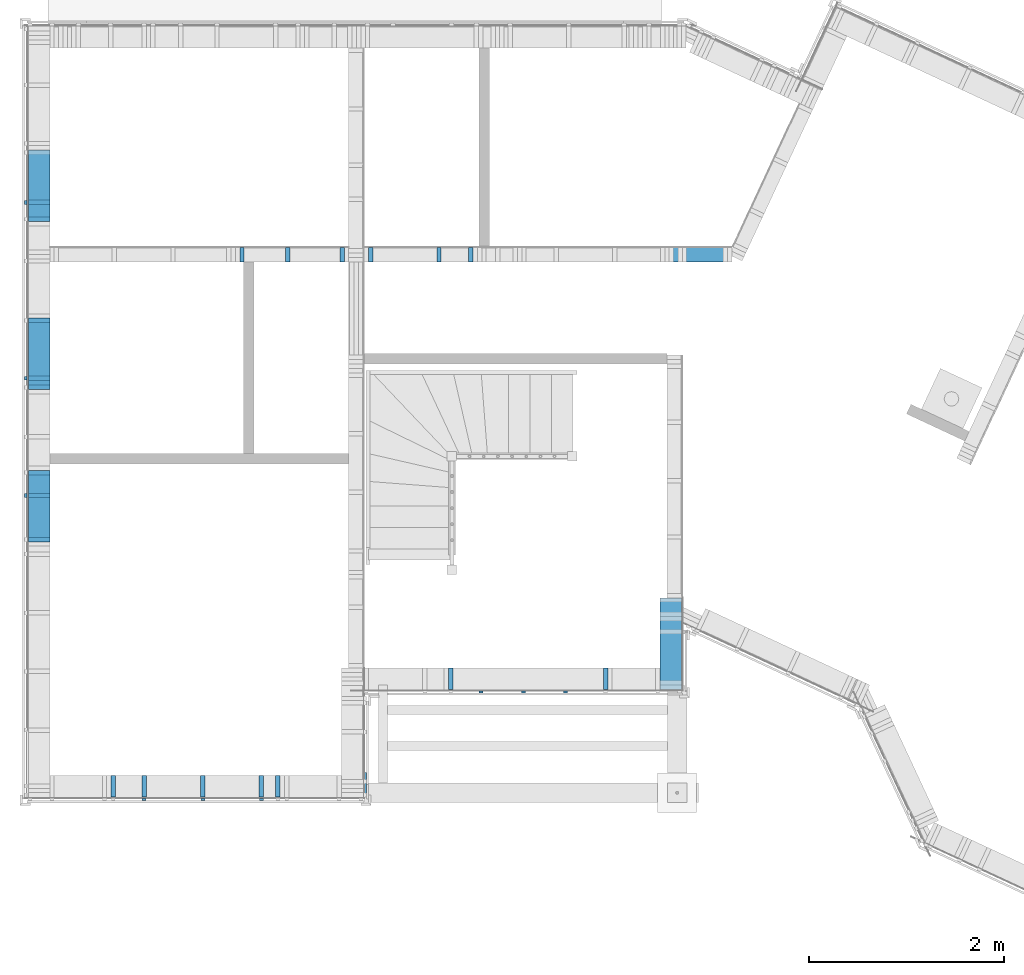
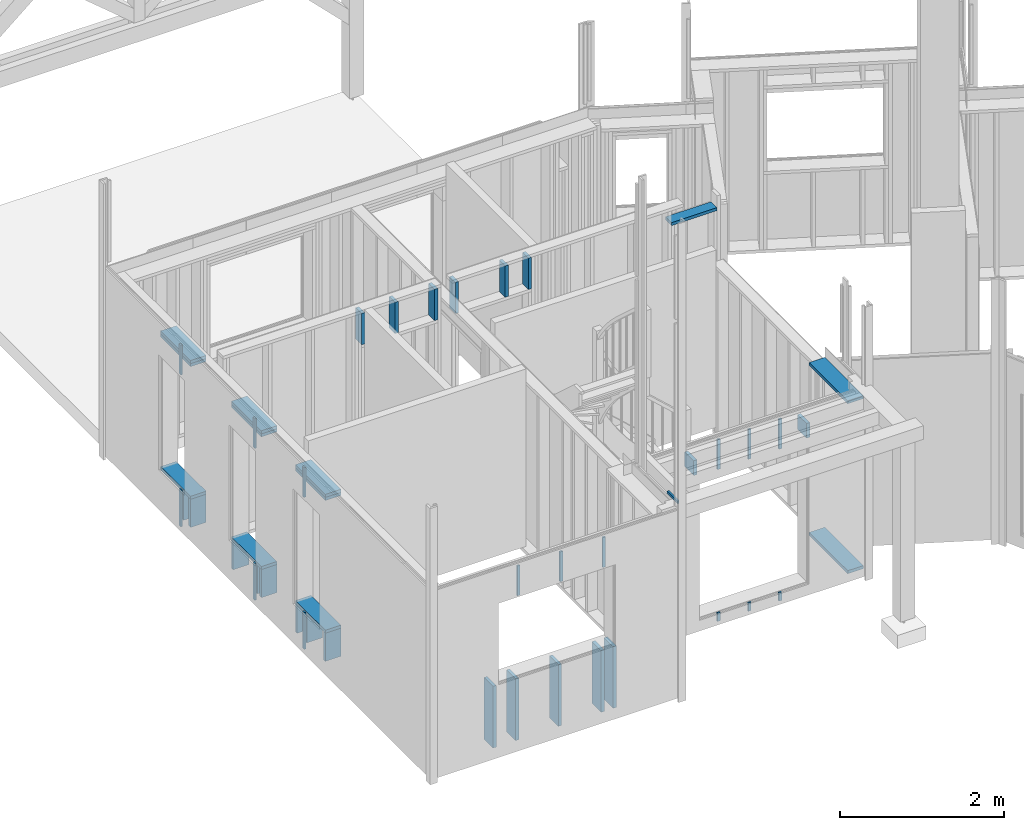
# One storey, part 18 of 34: 49 members.
"""IFC2X3 building model written with IfcOpenShell, lengths in metres."""

from ifc_helpers import new_model, si_unit, direction, frame, origin_with_axes, place, context, subcontext, project, spatial, faceted_brep, material, element, save


model = new_model("IFC2X3")

# Units and contexts
model_context = context("Model", 3, precision=1e-06, world=origin_with_axes(), true_north=direction((0.0, 1.0, 0.0)))
body_context = subcontext(model_context, "Body", "Model", "MODEL_VIEW")
ifc_project = project(units=[si_unit("LENGTHUNIT", "METRE"), si_unit("AREAUNIT", "SQUARE_METRE"), si_unit("VOLUMEUNIT", "CUBIC_METRE"), si_unit("PLANEANGLEUNIT", "RADIAN")], contexts=[model_context])

# Site, building, storey
site_placement = place(None, origin_with_axes())
site = spatial("IfcSite", under=ifc_project, at=site_placement, CompositionType="ELEMENT")
building_placement = place(site_placement, origin_with_axes())
building = spatial("IfcBuilding", under=site, at=building_placement, Name="Building 1", CompositionType="ELEMENT")
storey_placement = place(building_placement, origin_with_axes())
storey = spatial("IfcBuildingStorey", under=building, at=storey_placement, Name="Rez de chaussée", CompositionType="ELEMENT", Elevation=0.0)

# Members
ifc_material = material(Name="Epicéa C24")
for number, where, z_axis, x_axis, name in (
    (1, (0.122, 4.9128031, 2.5005), (-1.0, 0.0, 0.0), (0.0, -1.0, 0.0), "Montant"),
    (2, (0.122, 3.3550564, 0.5295), (-1.0, 0.0, 0.0), (0.0, -1.0, 0.0), "Montant"),
):
    element("IfcMember", number, at=place(storey_placement, frame(where, z_axis=z_axis, x_axis=x_axis)), inside=storey, material=ifc_material, Name=name, context=body_context, shape_type="Brep", body=[
        faceted_brep([(0.73, -0.0225, -0.11), (0.73, 0.0225, -0.11), (0.73, 0.0225, 0.11), (0.73, -0.0225, 0.11), (0.0, 0.0225, 0.11), (0.0, -0.0225, 0.11), (0.0, 0.0225, -0.11), (0.0, -0.0225, -0.11)], [[[0, 1, 2, 3]], [[3, 2, 4, 5]], [[2, 1, 6, 4]], [[6, 7, 5, 4]], [[0, 3, 5, 7]], [[1, 0, 7, 6]]]),
    ])
member_1_placement = place(storey_placement, frame((0.122, 6.098, 0.507), z_axis=(-1.0, 0.0, 0.0), x_axis=(0.0, 0.0, -1.0)))
element("IfcMember", 3, at=member_1_placement, inside=storey, material=ifc_material, Name="Montant", context=body_context, shape_type="Brep", body=[
    faceted_brep([(0.417, -0.0225, -0.11), (0.417, 0.0225, -0.11), (0.417, 0.0225, 0.11), (0.417, -0.0225, 0.11), (0.0, 0.0225, 0.11), (0.0, -0.0225, 0.11), (0.0, 0.0225, -0.11), (0.0, -0.0225, -0.11)], [[[0, 1, 2, 3]], [[4, 5, 3, 2]], [[6, 4, 2, 1]], [[7, 6, 1, 0]], [[5, 7, 0, 3]], [[7, 5, 4, 6]]]),
])
member_2_placement = place(storey_placement, frame((-0.013, 6.098, 0.552), z_axis=(-1.0, 0.0, 0.0), x_axis=(0.0, 0.0, -1.0)))
element("IfcMember", 4, at=member_2_placement, inside=storey, material=ifc_material, Name="latte 27/40", context=body_context, shape_type="Brep", body=[
    faceted_brep([(0.547, 0.02, 0.012), (0.547, -0.02, 0.012), (0.547, -0.02, -0.012), (0.547, 0.02, -0.012), (0.0, -0.02, -0.012), (0.0, 0.02, -0.012), (0.0, -0.02, 0.012), (0.0, 0.02, 0.012)], [[[0, 1, 2, 3]], [[4, 5, 3, 2]], [[6, 4, 2, 1]], [[5, 7, 0, 3]], [[7, 6, 1, 0]], [[5, 4, 6, 7]]]),
])
member_3_placement = place(storey_placement, frame((5.078, 1.0878281, 0.129), z_axis=(0.0, 1.0, 0.0), x_axis=(0.0, 0.0, -1.0)))
element("IfcMember", 5, at=member_3_placement, inside=storey, material=ifc_material, Name="latte 27/40", context=body_context, shape_type="Brep", body=[
    faceted_brep([(0.124, 0.02, -0.012), (0.124, 0.02, 0.012), (0.124, -0.02, 0.012), (0.124, -0.02, -0.012), (0.0, 0.02, 0.012), (0.0, 0.02, -0.012), (0.0, -0.02, -0.012), (0.0, -0.02, 0.012)], [[[0, 1, 2, 3]], [[4, 5, 6, 7]], [[3, 6, 5, 0]], [[2, 7, 6, 3]], [[1, 4, 7, 2]], [[0, 5, 4, 1]]]),
])
for number, where, z_axis, x_axis, name in (
    (6, (4.646, 1.0878281, 2.703), (0.0, 1.0, 0.0), (0.0, 0.0, -1.0), "latte 27/40"),
    (7, (5.078, 1.0878281, 2.703), (0.0, 1.0, 0.0), (0.0, 0.0, -1.0), "latte 27/40"),
    (8, (5.51, 1.0878281, 2.703), (0.0, 1.0, 0.0), (0.0, 0.0, -1.0), "latte 27/40"),
):
    element("IfcMember", number, at=place(storey_placement, frame(where, z_axis=z_axis, x_axis=x_axis)), inside=storey, material=ifc_material, Name=name, context=body_context, shape_type="Brep", body=[
        faceted_brep([(0.443, 0.02, -0.012), (0.443, 0.02, 0.012), (0.443, -0.02, 0.012), (0.443, -0.02, -0.012), (0.0, 0.02, 0.012), (0.0, 0.02, -0.012), (0.0, -0.02, -0.012), (0.0, -0.02, 0.012)], [[[0, 1, 2, 3]], [[4, 5, 6, 7]], [[3, 6, 5, 0]], [[2, 7, 6, 3]], [[1, 4, 7, 2]], [[0, 5, 4, 1]]]),
    ])
for number, where, z_axis, x_axis, name in (
    (9, (5.51, 1.0878281, 0.129), (0.0, 1.0, 0.0), (0.0, 0.0, -1.0), "latte 27/40"),
    (10, (4.646, 1.0878281, 0.129), (0.0, 1.0, 0.0), (0.0, 0.0, -1.0), "latte 27/40"),
):
    element("IfcMember", number, at=place(storey_placement, frame(where, z_axis=z_axis, x_axis=x_axis)), inside=storey, material=ifc_material, Name=name, context=body_context, shape_type="Brep", body=[
        faceted_brep([(0.124, 0.02, -0.012), (0.124, 0.02, 0.012), (0.124, -0.02, 0.012), (0.124, -0.02, -0.012), (0.0, 0.02, 0.012), (0.0, 0.02, -0.012), (0.0, -0.02, -0.012), (0.0, -0.02, 0.012)], [[[0, 1, 2, 3]], [[4, 5, 6, 7]], [[3, 6, 5, 0]], [[2, 7, 6, 3]], [[1, 4, 7, 2]], [[0, 5, 4, 1]]]),
    ])
member_4_placement = place(storey_placement, frame((1.198, -0.013, 2.703), z_axis=(0.0, -1.0, 0.0), x_axis=(0.0, 0.0, -1.0)))
element("IfcMember", 11, at=member_4_placement, inside=storey, material=ifc_material, Name="latte 27/40", context=body_context, shape_type="Brep", body=[
    faceted_brep([(0.443, 0.02, -0.012), (0.443, 0.02, 0.012), (0.443, -0.02, 0.012), (0.443, -0.02, -0.012), (0.0, 0.02, 0.012), (0.0, 0.02, -0.012), (0.0, -0.02, -0.012), (0.0, -0.02, 0.012)], [[[0, 1, 2, 3]], [[4, 5, 6, 7]], [[3, 6, 5, 0]], [[2, 7, 6, 3]], [[1, 4, 7, 2]], [[0, 5, 4, 1]]]),
])
member_5_placement = place(storey_placement, frame((-0.013, 3.098, 0.552), z_axis=(-1.0, 0.0, 0.0), x_axis=(0.0, 0.0, -1.0)))
element("IfcMember", 12, at=member_5_placement, inside=storey, material=ifc_material, Name="latte 27/40", context=body_context, shape_type="Brep", body=[
    faceted_brep([(0.547, 0.02, 0.012), (0.547, -0.02, 0.012), (0.547, -0.02, -0.012), (0.547, 0.02, -0.012), (0.0, -0.02, -0.012), (0.0, 0.02, -0.012), (0.0, -0.02, 0.012), (0.0, 0.02, 0.012)], [[[0, 1, 2, 3]], [[4, 5, 3, 2]], [[6, 4, 2, 1]], [[5, 7, 0, 3]], [[7, 6, 1, 0]], [[5, 4, 6, 7]]]),
])
for number, where, z_axis, x_axis, name in (
    (13, (0.122, 3.098, 0.507), (-1.0, 0.0, 0.0), (0.0, 0.0, -1.0), "Montant"),
    (14, (0.122, 4.298, 0.507), (-1.0, 0.0, 0.0), (0.0, 0.0, -1.0), "Montant"),
):
    element("IfcMember", number, at=place(storey_placement, frame(where, z_axis=z_axis, x_axis=x_axis)), inside=storey, material=ifc_material, Name=name, context=body_context, shape_type="Brep", body=[
        faceted_brep([(0.417, -0.0225, -0.11), (0.417, 0.0225, -0.11), (0.417, 0.0225, 0.11), (0.417, -0.0225, 0.11), (0.0, 0.0225, 0.11), (0.0, -0.0225, 0.11), (0.0, 0.0225, -0.11), (0.0, -0.0225, -0.11)], [[[0, 1, 2, 3]], [[4, 5, 3, 2]], [[6, 4, 2, 1]], [[7, 6, 1, 0]], [[5, 7, 0, 3]], [[7, 5, 4, 6]]]),
    ])
member_6_placement = place(storey_placement, frame((-0.013, 4.298, 0.552), z_axis=(-1.0, 0.0, 0.0), x_axis=(0.0, 0.0, -1.0)))
element("IfcMember", 15, at=member_6_placement, inside=storey, material=ifc_material, Name="latte 27/40", context=body_context, shape_type="Brep", body=[
    faceted_brep([(0.547, 0.02, 0.012), (0.547, -0.02, 0.012), (0.547, -0.02, -0.012), (0.547, 0.02, -0.012), (0.0, -0.02, -0.012), (0.0, 0.02, -0.012), (0.0, -0.02, 0.012), (0.0, 0.02, 0.012)], [[[0, 1, 2, 3]], [[4, 5, 3, 2]], [[6, 4, 2, 1]], [[5, 7, 0, 3]], [[7, 6, 1, 0]], [[5, 4, 6, 7]]]),
])
member_7_placement = place(storey_placement, frame((-0.013, 6.098, 2.703), z_axis=(-1.0, 0.0, 0.0), x_axis=(0.0, 0.0, -1.0)))
element("IfcMember", 16, at=member_7_placement, inside=storey, material=ifc_material, Name="latte 27/40", context=body_context, shape_type="Brep", body=[
    faceted_brep([(0.443, -0.02, -0.012), (0.443, 0.02, -0.012), (0.443, 0.02, 0.012), (0.443, -0.02, 0.012), (0.0, 0.02, 0.012), (0.0, -0.02, 0.012), (0.0, 0.02, -0.012), (0.0, -0.02, -0.012)], [[[0, 1, 2, 3]], [[3, 2, 4, 5]], [[2, 1, 6, 4]], [[5, 4, 6, 7]], [[1, 0, 7, 6]], [[0, 3, 5, 7]]]),
])
member_8_placement = place(storey_placement, frame((3.461, 0.012, 2.83), z_axis=(-1.0, 0.0, 0.0), x_axis=(0.0, 1.0, 0.0)))
element("IfcMember", 17, at=member_8_placement, inside=storey, material=ifc_material, Name="latte chantier", context=body_context, shape_type="Brep", body=[
    faceted_brep([(0.25, 0.02, -0.012), (0.25, 0.02, 0.012), (0.25, -0.02, 0.012), (0.25, -0.02, -0.012), (0.0, 0.02, 0.012), (0.0, 0.02, -0.012), (0.0, -0.02, -0.012), (0.0, -0.02, 0.012)], [[[0, 1, 2, 3]], [[4, 5, 6, 7]], [[3, 6, 5, 0]], [[2, 7, 6, 3]], [[1, 4, 7, 2]], [[0, 5, 4, 1]]]),
])
for number, where, z_axis, x_axis, name in (
    (18, (0.122, 4.9128031, 0.5295), (-1.0, 0.0, 0.0), (0.0, -1.0, 0.0), "Montant"),
    (19, (0.122, 6.6331735, 2.5455), (-1.0, 0.0, 0.0), (0.0, -1.0, 0.0), "Montant"),
    (20, (0.122, 3.3550564, 2.5005), (-1.0, 0.0, 0.0), (0.0, -1.0, 0.0), "Montant"),
):
    element("IfcMember", number, at=place(storey_placement, frame(where, z_axis=z_axis, x_axis=x_axis)), inside=storey, material=ifc_material, Name=name, context=body_context, shape_type="Brep", body=[
        faceted_brep([(0.73, -0.0225, -0.11), (0.73, 0.0225, -0.11), (0.73, 0.0225, 0.11), (0.73, -0.0225, 0.11), (0.0, 0.0225, 0.11), (0.0, -0.0225, 0.11), (0.0, 0.0225, -0.11), (0.0, -0.0225, -0.11)], [[[0, 1, 2, 3]], [[3, 2, 4, 5]], [[2, 1, 6, 4]], [[6, 7, 5, 4]], [[0, 3, 5, 7]], [[1, 0, 7, 6]]]),
    ])
member_9_placement = place(storey_placement, frame((2.6685, 5.5627176, 2.76), z_axis=(0.0, 1.0, 0.0), x_axis=(0.0, 0.0, -1.0)))
element("IfcMember", 21, at=member_9_placement, inside=storey, material=ifc_material, Name="Montant", context=body_context, shape_type="Brep", body=[
    faceted_brep([(0.465, 0.0225, -0.0725), (0.465, 0.0225, 0.0725), (0.465, -0.0225, 0.0725), (0.465, -0.0225, -0.0725), (0.0, 0.0225, 0.0725), (0.0, -0.0225, 0.0725), (0.0, 0.0225, -0.0725), (0.0, -0.0225, -0.0725)], [[[0, 1, 2, 3]], [[2, 1, 4, 5]], [[1, 0, 6, 4]], [[0, 3, 7, 6]], [[3, 2, 5, 7]], [[5, 4, 6, 7]]]),
])
member_10_placement = place(storey_placement, frame((0.122, 4.9128031, 2.5455), z_axis=(-1.0, 0.0, 0.0), x_axis=(0.0, -1.0, 0.0)))
element("IfcMember", 22, at=member_10_placement, inside=storey, material=ifc_material, Name="Montant", context=body_context, shape_type="Brep", body=[
    faceted_brep([(0.73, -0.0225, -0.11), (0.73, 0.0225, -0.11), (0.73, 0.0225, 0.11), (0.73, -0.0225, 0.11), (0.0, 0.0225, 0.11), (0.0, -0.0225, 0.11), (0.0, 0.0225, -0.11), (0.0, -0.0225, -0.11)], [[[0, 1, 2, 3]], [[3, 2, 4, 5]], [[2, 1, 6, 4]], [[6, 7, 5, 4]], [[0, 3, 5, 7]], [[1, 0, 7, 6]]]),
])
member_11_placement = place(storey_placement, frame((4.3349376, 1.2228281, 2.478), z_axis=(0.0, -1.0, 0.0), x_axis=(0.0, 0.0, -1.0)))
element("IfcMember", 23, at=member_11_placement, inside=storey, material=ifc_material, Name="Montant", context=body_context, shape_type="Brep", body=[
    faceted_brep([(0.0, 0.0225, 0.11), (0.0, 0.0225, -0.11), (0.0, -0.0225, -0.11), (0.0, -0.0225, 0.11), (0.218, 0.0225, -0.11), (0.218, -0.0225, -0.11), (0.218, 0.0225, 0.11), (0.218, -0.0225, 0.11)], [[[0, 1, 2, 3]], [[2, 1, 4, 5]], [[1, 0, 6, 4]], [[4, 6, 7, 5]], [[3, 2, 5, 7]], [[0, 3, 7, 6]]]),
])
member_12_placement = place(storey_placement, frame((0.8815, 0.122, 1.007), z_axis=(0.0, -1.0, 0.0), x_axis=(0.0, 0.0, -1.0)))
element("IfcMember", 24, at=member_12_placement, inside=storey, material=ifc_material, Name="Montant", context=body_context, shape_type="Brep", body=[
    faceted_brep([(0.917, -0.0225, -0.11), (0.917, 0.0225, -0.11), (0.917, 0.0225, 0.11), (0.917, -0.0225, 0.11), (0.0, -0.0225, 0.11), (0.0, -0.0225, -0.11), (0.0, 0.0225, -0.11), (0.0, 0.0225, 0.11)], [[[0, 1, 2, 3]], [[0, 3, 4, 5]], [[1, 0, 5, 6]], [[2, 1, 6, 7]], [[3, 2, 7, 4]], [[4, 7, 6, 5]]]),
])
member_13_placement = place(storey_placement, frame((1.798, -0.013, 2.703), z_axis=(0.0, -1.0, 0.0), x_axis=(0.0, 0.0, -1.0)))
element("IfcMember", 25, at=member_13_placement, inside=storey, material=ifc_material, Name="latte 27/40", context=body_context, shape_type="Brep", body=[
    faceted_brep([(0.443, 0.02, -0.012), (0.443, 0.02, 0.012), (0.443, -0.02, 0.012), (0.443, -0.02, -0.012), (0.0, 0.02, 0.012), (0.0, 0.02, -0.012), (0.0, -0.02, -0.012), (0.0, -0.02, 0.012)], [[[0, 1, 2, 3]], [[4, 5, 6, 7]], [[3, 6, 5, 0]], [[2, 7, 6, 3]], [[1, 4, 7, 2]], [[0, 5, 4, 1]]]),
])
member_14_placement = place(storey_placement, frame((6.586, 1.1128281, 2.5905), z_axis=(-1.0, 0.0, 0.0), x_axis=(0.0, 1.0, 0.0)))
element("IfcMember", 26, at=member_14_placement, inside=storey, material=ifc_material, Name="Montant", context=body_context, shape_type="Brep", body=[
    faceted_brep([(0.9386462, -0.0225, -0.11), (0.9386462, 0.0225, -0.11), (0.9386462, 0.0225, 0.11), (0.9386462, -0.0225, 0.11), (0.0, 0.0225, 0.11), (0.0, 0.0225, -0.11), (0.0, -0.0225, -0.11), (0.0, -0.0225, 0.11)], [[[0, 1, 2, 3]], [[4, 5, 6, 7]], [[2, 4, 7, 3]], [[1, 5, 4, 2]], [[0, 6, 5, 1]], [[3, 7, 6, 0]]]),
])
member_15_placement = place(storey_placement, frame((2.5665, 0.122, 1.007), z_axis=(0.0, -1.0, 0.0), x_axis=(0.0, 0.0, -1.0)))
element("IfcMember", 27, at=member_15_placement, inside=storey, material=ifc_material, Name="Montant", context=body_context, shape_type="Brep", body=[
    faceted_brep([(0.917, -0.0225, -0.11), (0.917, 0.0225, -0.11), (0.917, 0.0225, 0.11), (0.917, -0.0225, 0.11), (0.0, -0.0225, 0.11), (0.0, -0.0225, -0.11), (0.0, 0.0225, -0.11), (0.0, 0.0225, 0.11)], [[[0, 1, 2, 3]], [[0, 3, 4, 5]], [[1, 0, 5, 6]], [[2, 1, 6, 7]], [[3, 2, 7, 4]], [[4, 7, 6, 5]]]),
])
member_16_placement = place(storey_placement, frame((6.586, 1.1128281, 0.0675), z_axis=(-1.0, 0.0, 0.0), x_axis=(0.0, 1.0, 0.0)))
element("IfcMember", 28, at=member_16_placement, inside=storey, material=ifc_material, Name="Lisse basse", context=body_context, shape_type="Brep", body=[
    faceted_brep([(0.9386462, -0.0225, -0.11), (0.9386462, 0.0225, -0.11), (0.9386462, 0.0225, 0.11), (0.9386462, -0.0225, 0.11), (0.0, 0.0225, 0.11), (0.0, 0.0225, -0.11), (0.0, -0.0225, -0.11), (0.0, -0.0225, 0.11)], [[[0, 1, 2, 3]], [[4, 5, 6, 7]], [[2, 4, 7, 3]], [[1, 5, 4, 2]], [[0, 6, 5, 1]], [[3, 7, 6, 0]]]),
])
for number, where, z_axis, x_axis, name in (
    (29, (0.122, 2.6475564, 0.507), (-1.0, 0.0, 0.0), (0.0, 0.0, -1.0), "Montant"),
    (30, (0.122, 3.3325564, 0.507), (-1.0, 0.0, 0.0), (0.0, 0.0, -1.0), "Montant"),
):
    element("IfcMember", number, at=place(storey_placement, frame(where, z_axis=z_axis, x_axis=x_axis)), inside=storey, material=ifc_material, Name=name, context=body_context, shape_type="Brep", body=[
        faceted_brep([(0.417, -0.0225, -0.11), (0.417, 0.0225, -0.11), (0.417, 0.0225, 0.11), (0.417, -0.0225, 0.11), (0.0, 0.0225, 0.11), (0.0, -0.0225, 0.11), (0.0, 0.0225, -0.11), (0.0, -0.0225, -0.11)], [[[0, 1, 2, 3]], [[4, 5, 3, 2]], [[6, 4, 2, 1]], [[7, 6, 1, 0]], [[5, 7, 0, 3]], [[7, 5, 4, 6]]]),
    ])
member_17_placement = place(storey_placement, frame((0.122, 3.3550564, 2.5455), z_axis=(-1.0, 0.0, 0.0), x_axis=(0.0, -1.0, 0.0)))
element("IfcMember", 31, at=member_17_placement, inside=storey, material=ifc_material, Name="Montant", context=body_context, shape_type="Brep", body=[
    faceted_brep([(0.73, -0.0225, -0.11), (0.73, 0.0225, -0.11), (0.73, 0.0225, 0.11), (0.73, -0.0225, 0.11), (0.0, 0.0225, 0.11), (0.0, -0.0225, 0.11), (0.0, 0.0225, -0.11), (0.0, -0.0225, -0.11)], [[[0, 1, 2, 3]], [[3, 2, 4, 5]], [[2, 1, 6, 4]], [[6, 7, 5, 4]], [[0, 3, 5, 7]], [[1, 0, 7, 6]]]),
])
member_18_placement = place(storey_placement, frame((0.122, 4.8903031, 0.507), z_axis=(-1.0, 0.0, 0.0), x_axis=(0.0, 0.0, -1.0)))
element("IfcMember", 32, at=member_18_placement, inside=storey, material=ifc_material, Name="Montant", context=body_context, shape_type="Brep", body=[
    faceted_brep([(0.417, -0.0225, -0.11), (0.417, 0.0225, -0.11), (0.417, 0.0225, 0.11), (0.417, -0.0225, 0.11), (0.0, 0.0225, 0.11), (0.0, -0.0225, 0.11), (0.0, 0.0225, -0.11), (0.0, -0.0225, -0.11)], [[[0, 1, 2, 3]], [[4, 5, 3, 2]], [[6, 4, 2, 1]], [[7, 6, 1, 0]], [[5, 7, 0, 3]], [[7, 5, 4, 6]]]),
])
member_19_placement = place(storey_placement, frame((-0.013, 4.298, 2.703), z_axis=(-1.0, 0.0, 0.0), x_axis=(0.0, 0.0, -1.0)))
element("IfcMember", 33, at=member_19_placement, inside=storey, material=ifc_material, Name="latte 27/40", context=body_context, shape_type="Brep", body=[
    faceted_brep([(0.443, -0.02, -0.012), (0.443, 0.02, -0.012), (0.443, 0.02, 0.012), (0.443, -0.02, 0.012), (0.0, 0.02, 0.012), (0.0, -0.02, 0.012), (0.0, 0.02, -0.012), (0.0, -0.02, -0.012)], [[[0, 1, 2, 3]], [[3, 2, 4, 5]], [[2, 1, 6, 4]], [[5, 4, 6, 7]], [[1, 0, 7, 6]], [[0, 3, 5, 7]]]),
])
member_20_placement = place(storey_placement, frame((0.122, 6.6331735, 2.5005), z_axis=(-1.0, 0.0, 0.0), x_axis=(0.0, -1.0, 0.0)))
element("IfcMember", 34, at=member_20_placement, inside=storey, material=ifc_material, Name="Montant", context=body_context, shape_type="Brep", body=[
    faceted_brep([(0.73, -0.0225, -0.11), (0.73, 0.0225, -0.11), (0.73, 0.0225, 0.11), (0.73, -0.0225, 0.11), (0.0, 0.0225, 0.11), (0.0, -0.0225, 0.11), (0.0, 0.0225, -0.11), (0.0, -0.0225, -0.11)], [[[0, 1, 2, 3]], [[3, 2, 4, 5]], [[2, 1, 6, 4]], [[6, 7, 5, 4]], [[0, 3, 5, 7]], [[1, 0, 7, 6]]]),
])
member_21_placement = place(storey_placement, frame((5.9199376, 1.2228281, 2.478), z_axis=(0.0, -1.0, 0.0), x_axis=(0.0, 0.0, -1.0)))
element("IfcMember", 35, at=member_21_placement, inside=storey, material=ifc_material, Name="Montant", context=body_context, shape_type="Brep", body=[
    faceted_brep([(0.0, 0.0225, 0.11), (0.0, 0.0225, -0.11), (0.0, -0.0225, -0.11), (0.0, -0.0225, 0.11), (0.218, 0.0225, -0.11), (0.218, -0.0225, -0.11), (0.218, 0.0225, 0.11), (0.218, -0.0225, 0.11)], [[[0, 1, 2, 3]], [[2, 1, 4, 5]], [[1, 0, 6, 4]], [[4, 6, 7, 5]], [[3, 2, 5, 7]], [[0, 3, 7, 6]]]),
])
member_22_placement = place(storey_placement, frame((0.122, 4.2053031, 0.507), z_axis=(-1.0, 0.0, 0.0), x_axis=(0.0, 0.0, -1.0)))
element("IfcMember", 36, at=member_22_placement, inside=storey, material=ifc_material, Name="Montant", context=body_context, shape_type="Brep", body=[
    faceted_brep([(0.417, -0.0225, -0.11), (0.417, 0.0225, -0.11), (0.417, 0.0225, 0.11), (0.417, -0.0225, 0.11), (0.0, 0.0225, 0.11), (0.0, -0.0225, 0.11), (0.0, 0.0225, -0.11), (0.0, -0.0225, -0.11)], [[[0, 1, 2, 3]], [[4, 5, 3, 2]], [[6, 4, 2, 1]], [[7, 6, 1, 0]], [[5, 7, 0, 3]], [[7, 5, 4, 6]]]),
])
member_23_placement = place(storey_placement, frame((0.122, 6.6331735, 0.5295), z_axis=(-1.0, 0.0, 0.0), x_axis=(0.0, -1.0, 0.0)))
element("IfcMember", 37, at=member_23_placement, inside=storey, material=ifc_material, Name="Montant", context=body_context, shape_type="Brep", body=[
    faceted_brep([(0.73, -0.0225, -0.11), (0.73, 0.0225, -0.11), (0.73, 0.0225, 0.11), (0.73, -0.0225, 0.11), (0.0, 0.0225, 0.11), (0.0, -0.0225, 0.11), (0.0, 0.0225, -0.11), (0.0, -0.0225, -0.11)], [[[0, 1, 2, 3]], [[3, 2, 4, 5]], [[2, 1, 6, 4]], [[6, 7, 5, 4]], [[0, 3, 5, 7]], [[1, 0, 7, 6]]]),
])
member_24_placement = place(storey_placement, frame((0.122, 5.9256735, 0.507), z_axis=(-1.0, 0.0, 0.0), x_axis=(0.0, 0.0, -1.0)))
element("IfcMember", 38, at=member_24_placement, inside=storey, material=ifc_material, Name="Montant", context=body_context, shape_type="Brep", body=[
    faceted_brep([(0.417, -0.0225, -0.11), (0.417, 0.0225, -0.11), (0.417, 0.0225, 0.11), (0.417, -0.0225, 0.11), (0.0, 0.0225, 0.11), (0.0, -0.0225, 0.11), (0.0, 0.0225, -0.11), (0.0, -0.0225, -0.11)], [[[0, 1, 2, 3]], [[4, 5, 3, 2]], [[6, 4, 2, 1]], [[7, 6, 1, 0]], [[5, 7, 0, 3]], [[7, 5, 4, 6]]]),
])
for number, where, z_axis, x_axis, name in (
    (39, (2.398, 0.122, 1.007), (0.0, -1.0, 0.0), (0.0, 0.0, -1.0), "Montant"),
    (40, (1.198, 0.122, 1.007), (0.0, -1.0, 0.0), (0.0, 0.0, -1.0), "Montant"),
    (41, (1.798, 0.122, 1.007), (0.0, -1.0, 0.0), (0.0, 0.0, -1.0), "Montant"),
):
    element("IfcMember", number, at=place(storey_placement, frame(where, z_axis=z_axis, x_axis=x_axis)), inside=storey, material=ifc_material, Name=name, context=body_context, shape_type="Brep", body=[
        faceted_brep([(0.917, -0.0225, -0.11), (0.917, 0.0225, -0.11), (0.917, 0.0225, 0.11), (0.917, -0.0225, 0.11), (0.0, -0.0225, 0.11), (0.0, -0.0225, -0.11), (0.0, 0.0225, -0.11), (0.0, 0.0225, 0.11)], [[[0, 1, 2, 3]], [[0, 3, 4, 5]], [[1, 0, 5, 6]], [[2, 1, 6, 7]], [[3, 2, 7, 4]], [[4, 7, 6, 5]]]),
    ])
member_25_placement = place(storey_placement, frame((-0.013, 3.098, 2.703), z_axis=(-1.0, 0.0, 0.0), x_axis=(0.0, 0.0, -1.0)))
element("IfcMember", 42, at=member_25_placement, inside=storey, material=ifc_material, Name="latte 27/40", context=body_context, shape_type="Brep", body=[
    faceted_brep([(0.443, -0.02, -0.012), (0.443, 0.02, -0.012), (0.443, 0.02, 0.012), (0.443, -0.02, 0.012), (0.0, 0.02, 0.012), (0.0, -0.02, 0.012), (0.0, 0.02, -0.012), (0.0, -0.02, -0.012)], [[[0, 1, 2, 3]], [[3, 2, 4, 5]], [[2, 1, 6, 4]], [[5, 4, 6, 7]], [[1, 0, 7, 6]], [[0, 3, 5, 7]]]),
])
member_26_placement = place(storey_placement, frame((4.2151297, 5.5627176, 2.76), z_axis=(0.0, 1.0, 0.0), x_axis=(0.0, 0.0, -1.0)))
element("IfcMember", 43, at=member_26_placement, inside=storey, material=ifc_material, Name="Montant", context=body_context, shape_type="Brep", body=[
    faceted_brep([(0.465, 0.0225, -0.0725), (0.465, 0.0225, 0.0725), (0.465, -0.0225, 0.0725), (0.465, -0.0225, -0.0725), (0.0, 0.0225, 0.0725), (0.0, -0.0225, 0.0725), (0.0, 0.0225, -0.0725), (0.0, -0.0225, -0.0725)], [[[0, 1, 2, 3]], [[2, 1, 4, 5]], [[1, 0, 6, 4]], [[0, 3, 7, 6]], [[3, 2, 5, 7]], [[5, 4, 6, 7]]]),
])
member_27_placement = place(storey_placement, frame((2.398, -0.013, 2.703), z_axis=(0.0, -1.0, 0.0), x_axis=(0.0, 0.0, -1.0)))
element("IfcMember", 44, at=member_27_placement, inside=storey, material=ifc_material, Name="latte 27/40", context=body_context, shape_type="Brep", body=[
    faceted_brep([(0.443, 0.02, -0.012), (0.443, 0.02, 0.012), (0.443, -0.02, 0.012), (0.443, -0.02, -0.012), (0.0, 0.02, 0.012), (0.0, 0.02, -0.012), (0.0, -0.02, -0.012), (0.0, -0.02, 0.012)], [[[0, 1, 2, 3]], [[4, 5, 6, 7]], [[3, 6, 5, 0]], [[2, 7, 6, 3]], [[1, 4, 7, 2]], [[0, 5, 4, 1]]]),
])
member_28_placement = place(storey_placement, frame((6.526, 5.5627176, 2.5625), z_axis=(0.0, 1.0, 0.0), x_axis=(1.0, 0.0, 0.0)))
element("IfcMember", 45, at=member_28_placement, inside=storey, material=ifc_material, Name="Montant", context=body_context, shape_type="Brep", body=[
    faceted_brep([(0.0, 0.0225, -0.0725), (0.0, -0.0225, -0.0725), (0.0, -0.0225, 0.0725), (0.0, 0.0225, 0.0725), (0.6421297, 0.0225, -0.0725), (0.6421297, -0.0225, -0.0725), (0.6421297, 0.0225, 0.0725), (0.6421297, -0.0225, 0.0725)], [[[0, 1, 2, 3]], [[1, 0, 4, 5]], [[0, 3, 6, 4]], [[5, 4, 6, 7]], [[2, 1, 5, 7]], [[3, 2, 7, 6]]]),
])
for number, where, z_axis, x_axis, name in (
    (46, (4.5405, 5.5627176, 2.76), (0.0, 1.0, 0.0), (0.0, 0.0, -1.0), "Montant"),
    (47, (3.5155, 5.5627176, 2.76), (0.0, 1.0, 0.0), (0.0, 0.0, -1.0), "Montant"),
    (48, (3.2235, 5.5627176, 2.76), (0.0, 1.0, 0.0), (0.0, 0.0, -1.0), "Montant"),
    (49, (2.1985, 5.5627176, 2.76), (0.0, 1.0, 0.0), (0.0, 0.0, -1.0), "Montant"),
):
    element("IfcMember", number, at=place(storey_placement, frame(where, z_axis=z_axis, x_axis=x_axis)), inside=storey, material=ifc_material, Name=name, context=body_context, shape_type="Brep", body=[
        faceted_brep([(0.465, 0.0225, -0.0725), (0.465, 0.0225, 0.0725), (0.465, -0.0225, 0.0725), (0.465, -0.0225, -0.0725), (0.0, 0.0225, 0.0725), (0.0, -0.0225, 0.0725), (0.0, 0.0225, -0.0725), (0.0, -0.0225, -0.0725)], [[[0, 1, 2, 3]], [[2, 1, 4, 5]], [[1, 0, 6, 4]], [[0, 3, 7, 6]], [[3, 2, 5, 7]], [[5, 4, 6, 7]]]),
    ])

save(model, "model.ifc")
